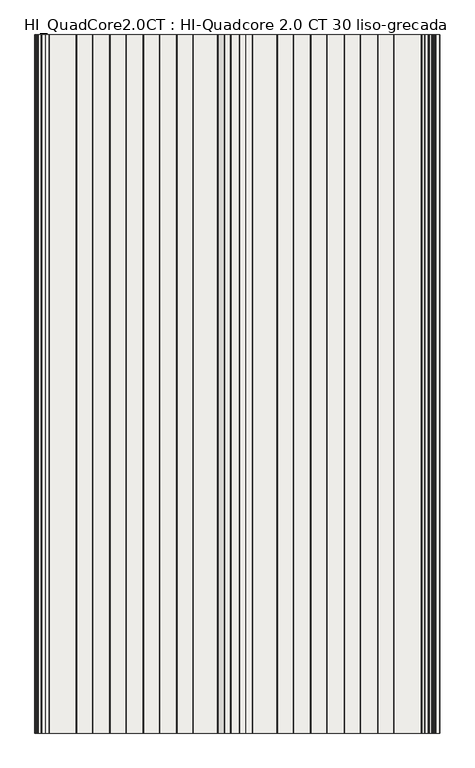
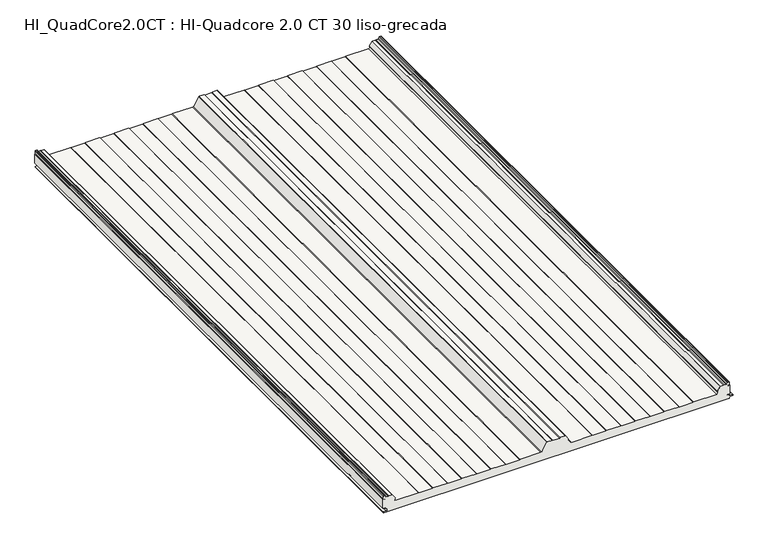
"""IFC4 building model written with IfcOpenShell, lengths in millimetres: slab geometry, HI_QuadCore2.0CT : HI-Quadcore 2.0 CT 30 liso-grecada."""

import ifcopenshell
import ifcopenshell.guid

model = None  # the IFC model being written
_history = None  # IfcOwnerHistory: only IFC2X3 demands one
_inside = {}  # id of a spatial element -> (the spatial element, [elements in it])
_under = {}  # id of a project, library or spatial element -> (it, [spatial elements below it])
_declared = {}  # id of a project -> (the project, [libraries it declares])
_typed = {}  # id of a type object -> (the type object, [elements of that type])
_made_of = {}  # id of a material, layer set ... -> (it, [elements and type objects made of it])


def new_model(schema):
    """Start an empty IFC model of exactly this schema.

    Asked for "IFC4X3", IfcOpenShell would pick the latest addendum, in which some entities
    have other attributes; the version numbers below select the first issue.
    IFC2X3 requires an IfcOwnerHistory on every rooted entity: one is made here for all.
    """
    global model, _history
    if schema == "IFC4X3":
        model = ifcopenshell.file(schema_version=(4, 3, 0, 0))
    else:
        model = ifcopenshell.file(schema=schema)
    _inside.clear()
    _under.clear()
    _declared.clear()
    _typed.clear()
    _made_of.clear()
    _history = None
    if model.schema == "IFC2X3":
        org = make("IfcOrganization", Name="unknown")
        user = make(
            "IfcPersonAndOrganization",
            ThePerson=make("IfcPerson", FamilyName="unknown"),
            TheOrganization=org,
        )
        app = make(
            "IfcApplication",
            ApplicationDeveloper=org,
            Version="unknown",
            ApplicationFullName="unknown",
            ApplicationIdentifier="unknown",
        )
        _history = make(
            "IfcOwnerHistory",
            OwningUser=user,
            OwningApplication=app,
            ChangeAction="ADDED",
            CreationDate=0,
        )
    return model


def make(cls, **values):
    """One entity of the class cls with the attributes given. An attribute that is None is left unset."""
    return model.create_entity(
        cls, **{name: value for name, value in values.items() if value is not None}
    )


def rooted(cls, **values):
    """An entity with a GlobalId (a new one), such as an element, a storey or a relation."""
    return make(cls, GlobalId=ifcopenshell.guid.new(), OwnerHistory=_history, **values)


def si_unit(unit_type, name, prefix=None):
    """IfcSIUnit, for example si_unit("LENGTHUNIT", "METRE", prefix="MILLI")."""
    return make("IfcSIUnit", UnitType=unit_type, Prefix=prefix, Name=name)


def assignment(units):
    """IfcUnitAssignment: the units of a project."""
    return None if units is None else make("IfcUnitAssignment", Units=units)


def point(xyz):
    """IfcCartesianPoint."""
    return None if xyz is None else make("IfcCartesianPoint", Coordinates=xyz)


def direction(xyz):
    """IfcDirection."""
    return None if xyz is None else make("IfcDirection", DirectionRatios=xyz)


def frame(location, z_axis=None, x_axis=None):
    """IfcAxis2Placement3D, a coordinate frame: its origin and axes. An axis left out is left unset."""
    return make(
        "IfcAxis2Placement3D",
        Location=point(location),
        Axis=direction(z_axis),
        RefDirection=direction(x_axis),
    )


def origin():
    """The frame at (0, 0, 0) with its axes left unset."""
    return frame((0.0, 0.0, 0.0))


def place(relative_to, where):
    """IfcLocalPlacement: puts the frame where relative to a parent placement (None: the world)."""
    return make(
        "IfcLocalPlacement", PlacementRelTo=relative_to, RelativePlacement=where
    )


def context(
    kind, dimensions, precision=None, world=None, true_north=None, identifier=None
):
    """IfcGeometricRepresentationContext, for example the 3D "Model" context."""
    return make(
        "IfcGeometricRepresentationContext",
        ContextIdentifier=identifier,
        ContextType=kind,
        CoordinateSpaceDimension=dimensions,
        Precision=precision,
        WorldCoordinateSystem=world,
        TrueNorth=true_north,
    )


def project(units=None, contexts=None):
    """IfcProject with its units and contexts."""
    return rooted(
        "IfcProject",
        Name="project",
        RepresentationContexts=contexts,
        UnitsInContext=assignment(units),
    )


def spatial(cls, under=None, at=None, **own):
    """A site, building, storey or space (cls), placed at a placement, below another one or the project."""
    s = rooted(cls, ObjectPlacement=at, **own)
    if under is not None:
        _under.setdefault(under.id(), (under, []))[1].append(s)
    return s


def polyline(points):
    """IfcPolyline through the points."""
    return make("IfcPolyline", Points=[point(p) for p in points])


def circle_curve(where, radius):
    """IfcCircle in the frame where."""
    return make("IfcCircle", Position=where, Radius=radius)


def shape(context_of_items, identifier, shape_type, items):
    """IfcShapeRepresentation: the items that make up one representation, for example the "Body"."""
    return make(
        "IfcShapeRepresentation",
        ContextOfItems=context_of_items,
        RepresentationIdentifier=identifier,
        RepresentationType=shape_type,
        Items=items,
    )


def source(mapping_origin, context_of_items, identifier, shape_type, items):
    """IfcRepresentationMap: a shape defined once, which mapped items show again and again."""
    return make(
        "IfcRepresentationMap",
        MappingOrigin=mapping_origin,
        MappedRepresentation=shape(context_of_items, identifier, shape_type, items),
    )


def transform(
    local_origin,
    x_axis=None,
    y_axis=None,
    z_axis=None,
    scale=None,
    scale2=None,
    scale3=None,
    uniform=True,
):
    """IfcCartesianTransformationOperator3D, or its non-uniform kind. x_axis, y_axis, z_axis: its Axis1, 2, 3."""
    if uniform:
        return make(
            "IfcCartesianTransformationOperator3D",
            Axis1=direction(x_axis),
            Axis2=direction(y_axis),
            LocalOrigin=point(local_origin),
            Scale=scale,
            Axis3=direction(z_axis),
        )
    return make(
        "IfcCartesianTransformationOperator3DnonUniform",
        Axis1=direction(x_axis),
        Axis2=direction(y_axis),
        LocalOrigin=point(local_origin),
        Scale=scale,
        Axis3=direction(z_axis),
        Scale2=scale2,
        Scale3=scale3,
    )


def mapped(mapping_source, mapping_target):
    """IfcMappedItem: shows the shape of a source again, moved by a transform."""
    return make(
        "IfcMappedItem", MappingSource=mapping_source, MappingTarget=mapping_target
    )


def made_of(thing, what):
    """Note that an element or type object is made of a material, layer set ...; save() writes the relation."""
    if what is not None:
        _made_of.setdefault(what.id(), (what, []))[1].append(thing)
    return thing


def element(
    cls,
    number,
    at=None,
    inside=None,
    cuts=None,
    type_object=None,
    material=None,
    context=None,
    identifier="Body",
    shape_type=None,
    held_by="IfcProductDefinitionShape",
    body=None,
    shapes=None,
    **own,
):
    """One element of the class cls, such as IfcWall. Its Tag is "e" and its number.

    at: its placement. inside: the storey or other place that contains it. cuts: it is an
    opening in that element (IfcRelVoidsElement). A single representation is given by context,
    identifier, shape_type and body (its items); several are given by shapes. held_by: the class
    of the entity that holds the representations. save() writes the other relations.
    """
    e = rooted(cls, Tag="e%d" % number, ObjectPlacement=at, **own)
    if body is not None:
        shapes = [shape(context, identifier, shape_type, body)]
    if shapes is not None:
        e.Representation = make(held_by, Representations=shapes)
    if inside is not None:
        _inside.setdefault(inside.id(), (inside, []))[1].append(e)
    if cuts is not None:
        rooted(
            "IfcRelVoidsElement", RelatingBuildingElement=cuts, RelatedOpeningElement=e
        )
    if type_object is not None:
        _typed.setdefault(type_object.id(), (type_object, []))[1].append(e)
    return made_of(e, material)


def aggregate(whole, parts):
    """IfcRelAggregates: a whole, such as a stair, and the parts it consists of."""
    return rooted("IfcRelAggregates", RelatingObject=whole, RelatedObjects=parts)


def save(model, path):
    """Write the relations noted so far, then the file.

    IfcRelAggregates (storeys below a building ...), IfcRelContainedInSpatialStructure (elements
    in a storey), IfcRelDefinesByType, IfcRelAssociatesMaterial and IfcRelDeclares: one each for
    every whole, place, type object, material and project.
    """
    for whole, parts in _under.values():
        aggregate(whole, parts)
    for where, things in _inside.values():
        rooted(
            "IfcRelContainedInSpatialStructure",
            RelatedElements=things,
            RelatingStructure=where,
        )
    for kind, things in _typed.values():
        rooted("IfcRelDefinesByType", RelatedObjects=things, RelatingType=kind)
    for what, things in _made_of.values():
        rooted("IfcRelAssociatesMaterial", RelatedObjects=things, RelatingMaterial=what)
    for by, libraries in _declared.values():
        rooted("IfcRelDeclares", RelatingContext=by, RelatedDefinitions=libraries)
    model.write(path)


def plane_surface(at):
    """IfcPlane: the flat surface through the origin of the frame at, square to its z axis."""
    return make("IfcPlane", Position=at)


def cylinder_surface(at, radius):
    """IfcCylindricalSurface: all points at the distance radius from the z axis of the frame at."""
    return make("IfcCylindricalSurface", Position=at, Radius=radius)


def revolved_surface(curve, axis_point, axis_direction):
    """IfcSurfaceOfRevolution: the curve turned about the line through axis_point along axis_direction."""
    return make(
        "IfcSurfaceOfRevolution",
        SweptCurve=make("IfcArbitraryOpenProfileDef", ProfileType="CURVE", Curve=curve),
        AxisPosition=make("IfcAxis1Placement", Location=point(axis_point), Axis=direction(axis_direction)),
    )


def advanced_brep(points, edges, surfaces, faces):
    """IfcAdvancedBrep: a solid bounded by faces that lie on surfaces and meet in shared edges.

    An edge is (start, end): straight between two places in points (the first is 0);
    or (start, end, curve); or (start, end, curve, False) where it runs against its curve.
    A face is (place in surfaces, loops), or (place, loops, False) where it looks against
    its surface's normal. A loop lists edges by number (the first is 1), with a minus sign
    where the edge is run from its end to its start. The first loop is the outer one.
    """
    corners = [point(p) for p in points]
    vertices = [make("IfcVertexPoint", VertexGeometry=c) for c in corners]
    made = []
    for start, end, *more in edges:
        made.append(
            make(
                "IfcEdgeCurve",
                EdgeStart=vertices[start],
                EdgeEnd=vertices[end],
                EdgeGeometry=more[0] if more else make("IfcPolyline", Points=[corners[start], corners[end]]),
                SameSense=more[1] if len(more) > 1 else True,
            )
        )
    hull = []
    for where, loops, *sense in faces:
        bounds = []
        for j, loop in enumerate(loops):
            ring = [make("IfcOrientedEdge", EdgeElement=made[abs(k) - 1], Orientation=k > 0) for k in loop]
            bounds.append(
                make(
                    "IfcFaceOuterBound" if j == 0 else "IfcFaceBound",
                    Bound=make("IfcEdgeLoop", EdgeList=ring),
                    Orientation=True,
                )
            )
        hull.append(make("IfcAdvancedFace", Bounds=bounds, FaceSurface=surfaces[where], SameSense=sense[0] if sense else True))
    return make("IfcAdvancedBrep", Outer=make("IfcClosedShell", CfsFaces=hull))


def hi_quadcore2_0ct_hi_quadcore_2_0_ct_30_liso_grecada_55503dc5(model_context):
    return source(origin(), model_context, "Body", "AdvancedBrep", [
        advanced_brep(
        [(5.1475465, 0.0, 45.7425833), (1.3824194, 0.0, 47.9163804), (0.0, 0.0, 47.9163804), (0.0, 0.0, 16.239302), (7.510215, 0.0, 16.239302), (7.510215, 0.0, 15.4391074), (3.6125693, 0.0, 15.4391074), (2.4319301, 0.0, 14.2584682), (3.4276302, 0.0, 13.0866965), (11.8278581, 0.0, 11.7547343), (11.7995989, 0.0, 4.4809044), (1.8467032, 0.0, 2.9844289), (2.0100062, 0.0, 0.8), (1147.9590685, 0.0, 0.8), (1149.3391392, 0.0, 2.1800708), (1152.5664905, 0.0, 5.8294074), (1160.7843221, 0.0, 6.8264698), (1160.7843299, 0.0, 9.4135286), (1150.8450446, 0.0, 10.6192254), (1147.8324398, 0.0, 14.0237344), (1147.2282701, 0.0, 15.44), (1142.7624398, 0.0, 15.44), (1142.7624398, 0.0, 16.239302), (1150.0, 0.0, 16.239302), (1150.0, 0.0, 47.9163804), (1148.8824194, 0.0, 47.9163804), (1145.1172924, 0.0, 45.7425833), (1144.7172924, 0.0, 46.4354036), (1148.5824194, 0.0, 48.6669358), (1148.5824194, 0.0, 58.1), (1147.4824194, 0.0, 59.2), (1143.8888221, 0.0, 59.2), (1142.8725546, 0.0, 58.5209518), (1141.0157992, 0.0, 54.0383476), (1138.8631598, 0.0, 52.6), (1132.1371875, 0.0, 52.6), (1130.4324194, 0.0, 51.8110374), (1128.7276514, 0.0, 52.6), (1119.4004541, 0.0, 52.6), (1118.4939153, 0.0, 52.1230469), (1109.1558806, 0.0, 38.5361221), (1109.356723, 0.0, 37.0692788), (1110.3070878, 0.0, 36.2744554), (1107.4852773, 0.0, 29.2), (1031.3816122, 0.0, 29.2), (1029.6495614, 0.0, 28.2), (984.6152775, 0.0, 28.2), (982.8832267, 0.0, 29.2), (935.3816122, 0.0, 29.2), (933.6495614, 0.0, 28.2), (888.6152775, 0.0, 28.2), (886.8832267, 0.0, 29.2), (839.3816122, 0.0, 29.2), (837.6495614, 0.0, 28.2), (792.6152775, 0.0, 28.2), (790.8832267, 0.0, 29.2), (743.3816122, 0.0, 29.2), (741.6495614, 0.0, 28.2), (696.6152775, 0.0, 28.2), (694.8832267, 0.0, 29.2), (625.9029123, 0.0, 29.2), (623.9344839, 0.0, 30.2833287), (605.9445057, 0.0, 58.6885573), (605.0152048, 0.0, 59.2), (588.8816122, 0.0, 59.2), (586.283536, 0.0, 57.7), (563.9813029, 0.0, 57.7), (561.3832267, 0.0, 59.2), (545.2496341, 0.0, 59.2), (544.3203331, 0.0, 58.6885573), (526.330355, 0.0, 30.2833287), (524.3619266, 0.0, 29.2), (455.3816122, 0.0, 29.2), (453.6495614, 0.0, 28.2), (408.6152775, 0.0, 28.2), (406.8832267, 0.0, 29.2), (359.3816122, 0.0, 29.2), (357.6495614, 0.0, 28.2), (312.6152775, 0.0, 28.2), (310.8832267, 0.0, 29.2), (263.3816122, 0.0, 29.2), (261.6495614, 0.0, 28.2), (216.6152775, 0.0, 28.2), (214.8832267, 0.0, 29.2), (167.3816122, 0.0, 29.2), (165.6495614, 0.0, 28.2), (120.6152775, 0.0, 28.2), (118.8832267, 0.0, 29.2), (42.7795617, 0.0, 29.2), (39.9577511, 0.0, 36.2744555), (40.9081159, 0.0, 37.0692788), (41.1089583, 0.0, 38.5361221), (31.7709236, 0.0, 52.1230469), (30.8643848, 0.0, 52.6), (21.5371875, 0.0, 52.6), (19.8324194, 0.0, 51.8110374), (18.1276514, 0.0, 52.6), (11.4016791, 0.0, 52.6), (9.2490397, 0.0, 54.0383476), (7.3922843, 0.0, 58.5209518), (6.3760168, 0.0, 59.2), (2.7824194, 0.0, 59.2), (1.6824194, 0.0, 58.1), (1.6824194, 0.0, 48.6669358), (5.5475465, 0.0, 46.4354036), (5.1475465, 2000.0, 45.7425833), (5.5475465, 2000.0, 46.4354036), (1.6824194, 2000.0, 48.6669358), (1.6824194, 2000.0, 58.1), (2.7824194, 2000.0, 59.2), (6.3760168, 2000.0, 59.2), (7.3922843, 2000.0, 58.5209518), (9.2490397, 2000.0, 54.0383476), (11.4016791, 2000.0, 52.6), (18.1276514, 2000.0, 52.6), (19.8324194, 2000.0, 51.8110374), (21.5371875, 2000.0, 52.6), (30.8643848, 2000.0, 52.6), (31.7709236, 2000.0, 52.1230469), (41.1089583, 2000.0, 38.5361221), (40.9081159, 2000.0, 37.0692788), (39.9577511, 2000.0, 36.2744555), (42.7795617, 2000.0, 29.2), (118.8832267, 2000.0, 29.2), (120.6152775, 2000.0, 28.2), (165.6495614, 2000.0, 28.2), (167.3816122, 2000.0, 29.2), (214.8832267, 2000.0, 29.2), (216.6152775, 2000.0, 28.2), (261.6495614, 2000.0, 28.2), (263.3816122, 2000.0, 29.2), (310.8832267, 2000.0, 29.2), (312.6152775, 2000.0, 28.2), (357.6495614, 2000.0, 28.2), (359.3816122, 2000.0, 29.2), (406.8832267, 2000.0, 29.2), (408.6152775, 2000.0, 28.2), (453.6495614, 2000.0, 28.2), (455.3816122, 2000.0, 29.2), (524.3619266, 2000.0, 29.2), (526.330355, 2000.0, 30.2833287), (544.3203331, 2000.0, 58.6885573), (545.2496341, 2000.0, 59.2), (561.3832267, 2000.0, 59.2), (563.9813029, 2000.0, 57.7), (586.283536, 2000.0, 57.7), (588.8816122, 2000.0, 59.2), (605.0152048, 2000.0, 59.2), (605.9445057, 2000.0, 58.6885573), (623.9344839, 2000.0, 30.2833287), (625.9029123, 2000.0, 29.2), (694.8832267, 2000.0, 29.2), (696.6152775, 2000.0, 28.2), (741.6495614, 2000.0, 28.2), (743.3816122, 2000.0, 29.2), (790.8832267, 2000.0, 29.2), (792.6152775, 2000.0, 28.2), (837.6495614, 2000.0, 28.2), (839.3816122, 2000.0, 29.2), (886.8832267, 2000.0, 29.2), (888.6152775, 2000.0, 28.2), (933.6495614, 2000.0, 28.2), (935.3816122, 2000.0, 29.2), (982.8832267, 2000.0, 29.2), (984.6152775, 2000.0, 28.2), (1029.6495614, 2000.0, 28.2), (1031.3816122, 2000.0, 29.2), (1107.4852773, 2000.0, 29.2), (1110.3070878, 2000.0, 36.2744554), (1109.356723, 2000.0, 37.0692788), (1109.1558806, 2000.0, 38.5361221), (1118.4939153, 2000.0, 52.1230469), (1119.4004541, 2000.0, 52.6), (1128.7276514, 2000.0, 52.6), (1130.4324194, 2000.0, 51.8110374), (1132.1371875, 2000.0, 52.6), (1138.8631598, 2000.0, 52.6), (1141.0157992, 2000.0, 54.0383476), (1142.8725546, 2000.0, 58.5209518), (1143.8888221, 2000.0, 59.2), (1147.4824194, 2000.0, 59.2), (1148.5824194, 2000.0, 58.1), (1148.5824194, 2000.0, 48.6669358), (1144.7172924, 2000.0, 46.4354036), (1145.1172924, 2000.0, 45.7425833), (1148.8824194, 2000.0, 47.9163804), (1150.0, 2000.0, 47.9163804), (1150.0, 2000.0, 16.239302), (1142.7624398, 2000.0, 16.239302), (1142.7624398, 2000.0, 15.44), (1147.2282701, 2000.0, 15.44), (1147.8324398, 2000.0, 14.0237344), (1150.8450446, 2000.0, 10.6192254), (1160.7843299, 2000.0, 9.4135286), (1160.7843221, 2000.0, 6.8264698), (1152.5664905, 2000.0, 5.8294074), (1149.3391392, 2000.0, 2.1800708), (1147.9590685, 2000.0, 0.8), (2.0100062, 2000.0, 0.8), (1.8467032, 2000.0, 2.9844289), (11.7995989, 2000.0, 4.4809044), (11.8278581, 2000.0, 11.7547343), (3.4273037, 2000.0, 13.0846342), (2.4319301, 2000.0, 14.2584682), (3.6125693, 2000.0, 15.4391074), (7.510215, 2000.0, 15.4391074), (7.510215, 2000.0, 16.239302), (0.0, 2000.0, 16.239302), (0.0, 2000.0, 47.9163804), (1.3824194, 2000.0, 47.9163804)],
        [
            (0, 1),
            (1, 2),
            (2, 3),
            (3, 4),
            (4, 5),
            (5, 6),
            (6, 7, circle_curve(frame((3.6125693, 0.0, 14.2584682), z_axis=(0.0, -1.0, 0.0), x_axis=(1.0, 0.0, 0.0)), 1.1806391)),
            (7, 8, circle_curve(frame((3.6121809, 0.0, 14.2524448), z_axis=(0.0, -1.0, 0.0), x_axis=(1.0, 0.0, 0.0)), 1.1802661)),
            (8, 9),
            (9, 10, circle_curve(frame((11.2524398, 0.0, 8.12), z_axis=(0.0, 1.0, 0.0), x_axis=(1.0, 0.0, 0.0)), 3.68)),
            (10, 11),
            (11, 12, circle_curve(frame((2.0100062, 0.0, 1.8983185), z_axis=(0.0, -1.0, 0.0), x_axis=(1.0, 0.0, 0.0)), 1.0983185)),
            (12, 13),
            (13, 14, circle_curve(frame((1147.9590685, 0.0, 2.1800708), z_axis=(0.0, -1.0, 0.0), x_axis=(1.0, 0.0, 0.0)), 1.3800708)),
            (14, 15, circle_curve(frame((1153.0160638, 0.0, 2.1800708), z_axis=(0.0, 1.0, 0.0), x_axis=(1.0, 0.0, 0.0)), 3.6769246)),
            (15, 16),
            (16, 17, circle_curve(frame((1160.5224398, 0.0, 8.12), z_axis=(0.0, -1.0, 0.0), x_axis=(1.0, 0.0, 0.0)), 1.3197737)),
            (17, 18),
            (18, 19, circle_curve(frame((1151.2624398, 0.0, 14.0237344), z_axis=(0.0, 1.0, 0.0), x_axis=(1.0, 0.0, 0.0)), 3.43)),
            (19, 20, circle_curve(frame((1145.8703839, 0.0, 14.0237344), z_axis=(0.0, -1.0, 0.0), x_axis=(1.0, 0.0, 0.0)), 1.9620559)),
            (20, 21),
            (21, 22),
            (22, 23),
            (23, 24),
            (24, 25),
            (25, 26),
            (26, 27),
            (27, 28),
            (28, 29),
            (29, 30, circle_curve(frame((1147.4824194, 0.0, 58.1), z_axis=(0.0, -1.0, 0.0), x_axis=(1.0, 0.0, 0.0)), 1.1)),
            (30, 31),
            (31, 32, circle_curve(frame((1143.8888221, 0.0, 58.1), z_axis=(0.0, -1.0, 0.0), x_axis=(1.0, 0.0, 0.0)), 1.1)),
            (32, 33),
            (33, 34, circle_curve(frame((1138.8631598, 0.0, 54.93), z_axis=(0.0, 1.0, 0.0), x_axis=(1.0, 0.0, 0.0)), 2.33)),
            (34, 35),
            (35, 36),
            (36, 37),
            (37, 38),
            (38, 39, circle_curve(frame((1119.4004541, 0.0, 51.5), z_axis=(0.0, -1.0, 0.0), x_axis=(1.0, 0.0, 0.0)), 1.1)),
            (39, 40),
            (40, 41, circle_curve(frame((1110.0624194, 0.0, 37.9130753), z_axis=(0.0, -1.0, 0.0), x_axis=(1.0, 0.0, 0.0)), 1.1)),
            (41, 42),
            (42, 43, circle_curve(frame((1107.4852773, 0.0, 33.3), z_axis=(0.0, 1.0, 0.0), x_axis=(1.0, 0.0, 0.0)), 4.1)),
            (43, 44),
            (44, 45),
            (45, 46),
            (46, 47),
            (47, 48),
            (48, 49),
            (49, 50),
            (50, 51),
            (51, 52),
            (52, 53),
            (53, 54),
            (54, 55),
            (55, 56),
            (56, 57),
            (57, 58),
            (58, 59),
            (59, 60),
            (60, 61, circle_curve(frame((625.9029123, 0.0, 31.53), z_axis=(0.0, 1.0, 0.0), x_axis=(1.0, 0.0, 0.0)), 2.33)),
            (61, 62),
            (62, 63, circle_curve(frame((605.0152048, 0.0, 58.1), z_axis=(0.0, -1.0, 0.0), x_axis=(1.0, 0.0, 0.0)), 1.1)),
            (63, 64),
            (64, 65),
            (65, 66),
            (66, 67),
            (67, 68),
            (68, 69, circle_curve(frame((545.2496341, 0.0, 58.1), z_axis=(0.0, -1.0, 0.0), x_axis=(1.0, 0.0, 0.0)), 1.1)),
            (69, 70),
            (70, 71, circle_curve(frame((524.3619266, 0.0, 31.53), z_axis=(0.0, 1.0, 0.0), x_axis=(1.0, 0.0, 0.0)), 2.33)),
            (71, 72),
            (72, 73),
            (73, 74),
            (74, 75),
            (75, 76),
            (76, 77),
            (77, 78),
            (78, 79),
            (79, 80),
            (80, 81),
            (81, 82),
            (82, 83),
            (83, 84),
            (84, 85),
            (85, 86),
            (86, 87),
            (87, 88),
            (88, 89, circle_curve(frame((42.7795617, 0.0, 33.3), z_axis=(0.0, 1.0, 0.0), x_axis=(1.0, 0.0, 0.0)), 4.1)),
            (89, 90),
            (90, 91, circle_curve(frame((40.2024195, 0.0, 37.9130752), z_axis=(0.0, -1.0, 0.0), x_axis=(1.0, 0.0, 0.0)), 1.1)),
            (91, 92),
            (92, 93, circle_curve(frame((30.8643848, 0.0, 51.5), z_axis=(0.0, -1.0, 0.0), x_axis=(1.0, 0.0, 0.0)), 1.1)),
            (93, 94),
            (94, 95),
            (95, 96),
            (96, 97),
            (97, 98, circle_curve(frame((11.4016791, 0.0, 54.93), z_axis=(0.0, 1.0, 0.0), x_axis=(1.0, 0.0, 0.0)), 2.33)),
            (98, 99),
            (99, 100, circle_curve(frame((6.3760168, 0.0, 58.1), z_axis=(0.0, -1.0, 0.0), x_axis=(1.0, 0.0, 0.0)), 1.1)),
            (100, 101),
            (101, 102, circle_curve(frame((2.7824194, 0.0, 58.1), z_axis=(0.0, -1.0, 0.0), x_axis=(1.0, 0.0, 0.0)), 1.1)),
            (102, 103),
            (103, 104),
            (104, 0),
            (105, 106),
            (106, 107),
            (107, 108),
            (108, 109, circle_curve(frame((2.7824194, 2000.0, 58.1), z_axis=(0.0, 1.0, 0.0), x_axis=(1.0, 0.0, 0.0)), 1.1)),
            (109, 110),
            (110, 111, circle_curve(frame((6.3760168, 2000.0, 58.1), z_axis=(0.0, 1.0, 0.0), x_axis=(1.0, 0.0, 0.0)), 1.1)),
            (111, 112),
            (112, 113, circle_curve(frame((11.4016791, 2000.0, 54.93), z_axis=(0.0, -1.0, 0.0), x_axis=(1.0, 0.0, 0.0)), 2.33)),
            (113, 114),
            (114, 115),
            (115, 116),
            (116, 117),
            (117, 118, circle_curve(frame((30.8643848, 2000.0, 51.5), z_axis=(0.0, 1.0, 0.0), x_axis=(1.0, 0.0, 0.0)), 1.1)),
            (118, 119),
            (119, 120, circle_curve(frame((40.2024195, 2000.0, 37.9130752), z_axis=(0.0, 1.0, 0.0), x_axis=(1.0, 0.0, 0.0)), 1.1)),
            (120, 121),
            (121, 122, circle_curve(frame((42.7795617, 2000.0, 33.3), z_axis=(0.0, -1.0, 0.0), x_axis=(1.0, 0.0, 0.0)), 4.1)),
            (122, 123),
            (123, 124),
            (124, 125),
            (125, 126),
            (126, 127),
            (127, 128),
            (128, 129),
            (129, 130),
            (130, 131),
            (131, 132),
            (132, 133),
            (133, 134),
            (134, 135),
            (135, 136),
            (136, 137),
            (137, 138),
            (138, 139),
            (139, 140, circle_curve(frame((524.3619266, 2000.0, 31.53), z_axis=(0.0, -1.0, 0.0), x_axis=(1.0, 0.0, 0.0)), 2.33)),
            (140, 141),
            (141, 142, circle_curve(frame((545.2496341, 2000.0, 58.1), z_axis=(0.0, 1.0, 0.0), x_axis=(1.0, 0.0, 0.0)), 1.1)),
            (142, 143),
            (143, 144),
            (144, 145),
            (145, 146),
            (146, 147),
            (147, 148, circle_curve(frame((605.0152048, 2000.0, 58.1), z_axis=(0.0, 1.0, 0.0), x_axis=(1.0, 0.0, 0.0)), 1.1)),
            (148, 149),
            (149, 150, circle_curve(frame((625.9029123, 2000.0, 31.53), z_axis=(0.0, -1.0, 0.0), x_axis=(1.0, 0.0, 0.0)), 2.33)),
            (150, 151),
            (151, 152),
            (152, 153),
            (153, 154),
            (154, 155),
            (155, 156),
            (156, 157),
            (157, 158),
            (158, 159),
            (159, 160),
            (160, 161),
            (161, 162),
            (162, 163),
            (163, 164),
            (164, 165),
            (165, 166),
            (166, 167),
            (167, 168, circle_curve(frame((1107.4852773, 2000.0, 33.3), z_axis=(0.0, -1.0, 0.0), x_axis=(1.0, 0.0, 0.0)), 4.1)),
            (168, 169),
            (169, 170, circle_curve(frame((1110.0624194, 2000.0, 37.9130753), z_axis=(0.0, 1.0, 0.0), x_axis=(1.0, 0.0, 0.0)), 1.1)),
            (170, 171),
            (171, 172, circle_curve(frame((1119.4004541, 2000.0, 51.5), z_axis=(0.0, 1.0, 0.0), x_axis=(1.0, 0.0, 0.0)), 1.1)),
            (172, 173),
            (173, 174),
            (174, 175),
            (175, 176),
            (176, 177, circle_curve(frame((1138.8631598, 2000.0, 54.93), z_axis=(0.0, -1.0, 0.0), x_axis=(1.0, 0.0, 0.0)), 2.33)),
            (177, 178),
            (178, 179, circle_curve(frame((1143.8888221, 2000.0, 58.1), z_axis=(0.0, 1.0, 0.0), x_axis=(1.0, 0.0, 0.0)), 1.1)),
            (179, 180),
            (180, 181, circle_curve(frame((1147.4824194, 2000.0, 58.1), z_axis=(0.0, 1.0, 0.0), x_axis=(1.0, 0.0, 0.0)), 1.1)),
            (181, 182),
            (182, 183),
            (183, 184),
            (184, 185),
            (185, 186),
            (186, 187),
            (187, 188),
            (188, 189),
            (189, 190),
            (190, 191, circle_curve(frame((1145.8703839, 2000.0, 14.0237344), z_axis=(0.0, 1.0, 0.0), x_axis=(1.0, 0.0, 0.0)), 1.9620559)),
            (191, 192, circle_curve(frame((1151.2624398, 2000.0, 14.0237344), z_axis=(0.0, -1.0, 0.0), x_axis=(1.0, 0.0, 0.0)), 3.43)),
            (192, 193),
            (193, 194, circle_curve(frame((1160.5224398, 2000.0, 8.12), z_axis=(0.0, 1.0, 0.0), x_axis=(1.0, 0.0, 0.0)), 1.3197737)),
            (194, 195),
            (195, 196, circle_curve(frame((1153.0160638, 2000.0, 2.1800708), z_axis=(0.0, -1.0, 0.0), x_axis=(1.0, 0.0, 0.0)), 3.6769246)),
            (196, 197, circle_curve(frame((1147.9590685, 2000.0, 2.1800708), z_axis=(0.0, 1.0, 0.0), x_axis=(1.0, 0.0, 0.0)), 1.3800708)),
            (197, 198),
            (198, 199, circle_curve(frame((2.0100062, 2000.0, 1.8983185), z_axis=(0.0, 1.0, 0.0), x_axis=(1.0, 0.0, 0.0)), 1.0983185)),
            (199, 200),
            (200, 201, circle_curve(frame((11.2524398, 2000.0, 8.12), z_axis=(0.0, -1.0, 0.0), x_axis=(1.0, 0.0, 0.0)), 3.68)),
            (201, 202),
            (202, 203, circle_curve(frame((3.6121809, 2000.0, 14.2524448), z_axis=(0.0, 1.0, 0.0), x_axis=(1.0, 0.0, 0.0)), 1.1802661)),
            (203, 204, circle_curve(frame((3.6125693, 2000.0, 14.2584682), z_axis=(0.0, 1.0, 0.0), x_axis=(1.0, 0.0, 0.0)), 1.1806391)),
            (204, 205),
            (205, 206),
            (206, 207),
            (207, 208),
            (208, 209),
            (209, 105),
            (0, 105),
            (209, 1),
            (208, 2),
            (207, 3),
            (186, 24),
            (23, 187),
            (185, 25),
            (184, 26),
            (183, 27),
            (182, 28),
            (181, 29),
            (180, 30),
            (179, 31),
            (178, 32),
            (177, 33),
            (176, 34),
            (175, 35),
            (174, 36),
            (173, 37),
            (172, 38),
            (171, 39),
            (170, 40),
            (169, 41),
            (168, 42),
            (167, 43),
            (166, 44),
            (165, 45),
            (164, 46),
            (163, 47),
            (162, 48),
            (161, 49),
            (160, 50),
            (159, 51),
            (158, 52),
            (157, 53),
            (156, 54),
            (155, 55),
            (154, 56),
            (153, 57),
            (152, 58),
            (151, 59),
            (150, 60),
            (149, 61),
            (148, 62),
            (147, 63),
            (146, 64),
            (145, 65),
            (144, 66),
            (143, 67),
            (142, 68),
            (141, 69),
            (140, 70),
            (139, 71),
            (138, 72),
            (137, 73),
            (136, 74),
            (135, 75),
            (134, 76),
            (133, 77),
            (132, 78),
            (131, 79),
            (130, 80),
            (129, 81),
            (128, 82),
            (127, 83),
            (126, 84),
            (125, 85),
            (124, 86),
            (123, 87),
            (122, 88),
            (121, 89),
            (120, 90),
            (119, 91),
            (118, 92),
            (117, 93),
            (116, 94),
            (115, 95),
            (114, 96),
            (113, 97),
            (112, 98),
            (111, 99),
            (110, 100),
            (109, 101),
            (108, 102),
            (107, 103),
            (106, 104),
            (22, 188),
            (206, 4),
            (205, 5),
            (204, 6),
            (203, 7),
            (202, 8),
            (201, 9),
            (200, 10),
            (199, 11),
            (198, 12),
            (197, 13),
            (196, 14),
            (195, 15),
            (194, 16),
            (193, 17),
            (192, 18),
            (191, 19),
            (190, 20),
            (189, 21),
        ],
        [
            plane_surface(frame((1.3824194, 0.0, 47.9163804), z_axis=(0.0, -1.0, 0.0), x_axis=(-0.866025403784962, 0.0, 0.4999999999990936))),
            plane_surface(frame((1.3824194, 2000.0, 47.9163804), z_axis=(0.0, 1.0, 0.0), x_axis=(0.866025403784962, 0.0, -0.4999999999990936))),
            plane_surface(frame((5.1475465, 0.0, 45.7425833), z_axis=(0.4999999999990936, 0.0, 0.866025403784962), x_axis=(0.0, 1.0, 0.0))),
            plane_surface(frame((1.3824194, 0.0, 47.9163804), z_axis=(0.0, 0.0, 1.0), x_axis=(0.0, 1.0, 0.0))),
            plane_surface(frame((0.0, 0.0, 47.9163804), z_axis=(-1.0, 0.0, 0.0), x_axis=(0.0, 1.0, 0.0))),
            plane_surface(frame((1150.0, 0.0, 20.0), z_axis=(1.0, 0.0, 0.0), x_axis=(0.0, 1.0, 0.0))),
            plane_surface(frame((1150.0, 0.0, 47.9163804), z_axis=(0.0, 0.0, 1.0), x_axis=(0.0, 1.0, 0.0))),
            plane_surface(frame((1148.8824194, 0.0, 47.9163804), z_axis=(-0.4999999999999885, 0.0, 0.8660254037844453), x_axis=(0.0, 1.0, 0.0))),
            plane_surface(frame((1145.1172924, 0.0, 45.7425833), z_axis=(0.8660254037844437, 0.0, 0.49999999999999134), x_axis=(0.0, 1.0, 0.0))),
            plane_surface(frame((1144.7172924, 0.0, 46.4354036), z_axis=(0.4999999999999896, 0.0, -0.8660254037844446), x_axis=(0.0, 1.0, 0.0))),
            plane_surface(frame((1148.5824194, 0.0, 48.6669358), z_axis=(1.0, 0.0, 0.0), x_axis=(0.0, 1.0, 0.0))),
            cylinder_surface(frame((1147.4824194, 2000.0, 58.1), z_axis=(0.0, -1.0, 0.0), x_axis=(1.0, 0.0, 0.0)), 1.1),
            plane_surface(frame((1147.4824194, 0.0, 59.2), z_axis=(0.0, 0.0, 1.0), x_axis=(0.0, 1.0, 0.0))),
            cylinder_surface(frame((1143.8888221, 2000.0, 58.1), z_axis=(0.0, -1.0, 0.0), x_axis=(1.0, 0.0, 0.0)), 1.1),
            plane_surface(frame((1142.8725546, 0.0, 58.5209518), z_axis=(-0.9238795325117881, 0.0, 0.38268343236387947), x_axis=(0.0, 1.0, 0.0))),
            revolved_surface(polyline([(1141.1931597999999, 2000.0, 54.93), (1141.1931597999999, 0.0, 54.93)]), (1138.8631598, 2000.0, 54.93), (0.0, 1.0, 0.0)),
            plane_surface(frame((1138.8631598, 0.0, 52.6), z_axis=(0.0, 0.0, 1.0), x_axis=(0.0, 1.0, 0.0))),
            plane_surface(frame((1132.1371875, 0.0, 52.6), z_axis=(-0.4199999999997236, 0.0, 0.9075241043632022), x_axis=(0.0, 1.0, 0.0))),
            plane_surface(frame((1130.4324194, 0.0, 51.8110374), z_axis=(0.42000000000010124, 0.0, 0.9075241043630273), x_axis=(0.0, 1.0, 0.0))),
            plane_surface(frame((1128.7276514, 0.0, 52.6), z_axis=(0.0, 0.0, 1.0), x_axis=(0.0, 1.0, 0.0))),
            cylinder_surface(frame((1119.4004541, 2000.0, 51.5), z_axis=(0.0, -1.0, 0.0), x_axis=(1.0, 0.0, 0.0)), 1.1),
            plane_surface(frame((1118.4939153, 0.0, 52.1230469), z_axis=(-0.824126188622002, 0.0, 0.5664062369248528), x_axis=(0.0, 1.0, 0.0))),
            cylinder_surface(frame((1110.0624194, 2000.0, 37.9130753), z_axis=(0.0, -1.0, 0.0), x_axis=(1.0, 0.0, 0.0)), 1.1),
            plane_surface(frame((1109.356723, 0.0, 37.0692788), z_axis=(-0.6415422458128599, 0.0, -0.7670877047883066), x_axis=(0.0, 1.0, 0.0))),
            revolved_surface(polyline([(1111.5852773, 2000.0, 33.3), (1111.5852773, 0.0, 33.3)]), (1107.4852773, 2000.0, 33.3), (0.0, 1.0, 0.0)),
            plane_surface(frame((1107.4852773, 0.0, 29.2), z_axis=(0.0, 0.0, 1.0), x_axis=(0.0, 1.0, 0.0))),
            plane_surface(frame((1031.3816122, 0.0, 29.2), z_axis=(-0.4999999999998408, 0.0, 0.8660254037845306), x_axis=(0.0, 1.0, 0.0))),
            plane_surface(frame((1029.6495614, 0.0, 28.2), z_axis=(0.0, 0.0, 1.0), x_axis=(0.0, 1.0, 0.0))),
            plane_surface(frame((984.6152775, 0.0, 28.2), z_axis=(0.4999999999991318, 0.0, 0.86602540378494), x_axis=(0.0, 1.0, 0.0))),
            plane_surface(frame((982.8832267, 0.0, 29.2), z_axis=(0.0, 0.0, 1.0), x_axis=(0.0, 1.0, 0.0))),
            plane_surface(frame((935.3816122, 0.0, 29.2), z_axis=(-0.49999999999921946, 0.0, 0.8660254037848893), x_axis=(0.0, 1.0, 0.0))),
            plane_surface(frame((933.6495614, 0.0, 28.2), z_axis=(0.0, 0.0, 1.0), x_axis=(0.0, 1.0, 0.0))),
            plane_surface(frame((888.6152775, 0.0, 28.2), z_axis=(0.49999999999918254, 0.0, 0.8660254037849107), x_axis=(0.0, 1.0, 0.0))),
            plane_surface(frame((886.8832267, 0.0, 29.2), z_axis=(0.0, 0.0, 1.0), x_axis=(0.0, 1.0, 0.0))),
            plane_surface(frame((839.3816122, 0.0, 29.2), z_axis=(-0.4999999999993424, 0.0, 0.8660254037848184), x_axis=(0.0, 1.0, 0.0))),
            plane_surface(frame((837.6495614, 0.0, 28.2), z_axis=(0.0, 0.0, 1.0), x_axis=(0.0, 1.0, 0.0))),
            plane_surface(frame((792.6152775, 0.0, 28.2), z_axis=(0.4999999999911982, 0.0, 0.8660254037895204), x_axis=(0.0, 1.0, 0.0))),
            plane_surface(frame((790.8832267, 0.0, 29.2), z_axis=(0.0, 0.0, 1.0), x_axis=(0.0, 1.0, 0.0))),
            plane_surface(frame((743.3816122, 0.0, 29.2), z_axis=(-0.5000000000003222, 0.0, 0.8660254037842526), x_axis=(0.0, 1.0, 0.0))),
            plane_surface(frame((741.6495614, 0.0, 28.2), z_axis=(0.0, 0.0, 1.0), x_axis=(0.0, 1.0, 0.0))),
            plane_surface(frame((696.6152775, 0.0, 28.2), z_axis=(0.5000000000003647, 0.0, 0.8660254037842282), x_axis=(0.0, 1.0, 0.0))),
            plane_surface(frame((694.8832267, 0.0, 29.2), z_axis=(0.0, 0.0, 1.0), x_axis=(0.0, 1.0, 0.0))),
            revolved_surface(polyline([(628.2329123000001, 2000.0, 31.53), (628.2329123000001, 0.0, 31.53)]), (625.9029123, 2000.0, 31.53), (0.0, 1.0, 0.0)),
            plane_surface(frame((623.9344839, 0.0, 30.2833287), z_axis=(0.8448190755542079, 0.0, 0.5350520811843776), x_axis=(0.0, 1.0, 0.0))),
            cylinder_surface(frame((605.0152048, 2000.0, 58.1), z_axis=(0.0, -1.0, 0.0), x_axis=(1.0, 0.0, 0.0)), 1.1),
            plane_surface(frame((605.0152048, 0.0, 59.2), z_axis=(0.0, 0.0, 1.0), x_axis=(0.0, 1.0, 0.0))),
            plane_surface(frame((588.8816122, 0.0, 59.2), z_axis=(-0.4999999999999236, 0.0, 0.8660254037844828), x_axis=(0.0, 1.0, 0.0))),
            plane_surface(frame((586.283536, 0.0, 57.7), z_axis=(0.0, 0.0, 1.0), x_axis=(0.0, 1.0, 0.0))),
            plane_surface(frame((563.9813029, 0.0, 57.7), z_axis=(0.5000000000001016, 0.0, 0.86602540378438), x_axis=(0.0, 1.0, 0.0))),
            plane_surface(frame((561.3832267, 0.0, 59.2), z_axis=(0.0, 0.0, 1.0), x_axis=(0.0, 1.0, 0.0))),
            cylinder_surface(frame((545.2496341, 2000.0, 58.1), z_axis=(0.0, -1.0, 0.0), x_axis=(1.0, 0.0, 0.0)), 1.1),
            plane_surface(frame((544.3203331, 0.0, 58.6885573), z_axis=(-0.8448190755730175, 0.0, 0.5350520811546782), x_axis=(0.0, 1.0, 0.0))),
            revolved_surface(polyline([(526.6919266, 2000.0, 31.53), (526.6919266, 0.0, 31.53)]), (524.3619266, 2000.0, 31.53), (0.0, 1.0, 0.0)),
            plane_surface(frame((524.3619266, 0.0, 29.2), z_axis=(0.0, 0.0, 1.0), x_axis=(0.0, 1.0, 0.0))),
            plane_surface(frame((455.3816122, 0.0, 29.2), z_axis=(-0.5000000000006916, 0.0, 0.8660254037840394), x_axis=(0.0, 1.0, 0.0))),
            plane_surface(frame((453.6495614, 0.0, 28.2), z_axis=(0.0, 0.0, 1.0), x_axis=(0.0, 1.0, 0.0))),
            plane_surface(frame((408.6152775, 0.0, 28.2), z_axis=(0.49999999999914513, 0.0, 0.8660254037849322), x_axis=(0.0, 1.0, 0.0))),
            plane_surface(frame((406.8832267, 0.0, 29.2), z_axis=(0.0, 0.0, 1.0), x_axis=(0.0, 1.0, 0.0))),
            plane_surface(frame((359.3816122, 0.0, 29.2), z_axis=(-0.500000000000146, 0.0, 0.8660254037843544), x_axis=(0.0, 1.0, 0.0))),
            plane_surface(frame((357.6495614, 0.0, 28.2), z_axis=(0.0, 0.0, 1.0), x_axis=(0.0, 1.0, 0.0))),
            plane_surface(frame((312.6152775, 0.0, 28.2), z_axis=(0.49999999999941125, 0.0, 0.8660254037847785), x_axis=(0.0, 1.0, 0.0))),
            plane_surface(frame((310.8832267, 0.0, 29.2), z_axis=(0.0, 0.0, 1.0), x_axis=(0.0, 1.0, 0.0))),
            plane_surface(frame((263.3816122, 0.0, 29.2), z_axis=(-0.4999999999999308, 0.0, 0.8660254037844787), x_axis=(0.0, 1.0, 0.0))),
            plane_surface(frame((261.6495614, 0.0, 28.2), z_axis=(0.0, 0.0, 1.0), x_axis=(0.0, 1.0, 0.0))),
            plane_surface(frame((216.6152775, 0.0, 28.2), z_axis=(0.49999999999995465, 0.0, 0.8660254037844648), x_axis=(0.0, 1.0, 0.0))),
            plane_surface(frame((214.8832267, 0.0, 29.2), z_axis=(0.0, 0.0, 1.0), x_axis=(0.0, 1.0, 0.0))),
            plane_surface(frame((167.3816122, 0.0, 29.2), z_axis=(-0.5000000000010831, 0.0, 0.8660254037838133), x_axis=(0.0, 1.0, 0.0))),
            plane_surface(frame((165.6495614, 0.0, 28.2), z_axis=(0.0, 0.0, 1.0), x_axis=(0.0, 1.0, 0.0))),
            plane_surface(frame((120.6152775, 0.0, 28.2), z_axis=(0.4999999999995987, 0.0, 0.8660254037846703), x_axis=(0.0, 1.0, 0.0))),
            plane_surface(frame((118.8832267, 0.0, 29.2), z_axis=(0.0, 0.0, 1.0), x_axis=(0.0, 1.0, 0.0))),
            revolved_surface(polyline([(46.879561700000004, 2000.0, 33.3), (46.879561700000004, 0.0, 33.3)]), (42.7795617, 2000.0, 33.3), (0.0, 1.0, 0.0)),
            plane_surface(frame((39.9577511, 0.0, 36.2744555), z_axis=(0.6415422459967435, 0.0, -0.7670877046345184), x_axis=(0.0, 1.0, 0.0))),
            cylinder_surface(frame((40.2024195, 2000.0, 37.9130752), z_axis=(0.0, -1.0, 0.0), x_axis=(1.0, 0.0, 0.0)), 1.1),
            plane_surface(frame((41.1089583, 0.0, 38.5361221), z_axis=(0.8241261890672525, 0.0, 0.5664062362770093), x_axis=(0.0, 1.0, 0.0))),
            cylinder_surface(frame((30.8643848, 2000.0, 51.5), z_axis=(0.0, -1.0, 0.0), x_axis=(1.0, 0.0, 0.0)), 1.1),
            plane_surface(frame((30.8643848, 0.0, 52.6), z_axis=(0.0, 0.0, 1.0), x_axis=(0.0, 1.0, 0.0))),
            plane_surface(frame((21.5371875, 0.0, 52.6), z_axis=(-0.4199999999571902, 0.0, 0.9075241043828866), x_axis=(0.0, 1.0, 0.0))),
            plane_surface(frame((19.8324194, 0.0, 51.8110374), z_axis=(0.4200000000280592, 0.0, 0.9075241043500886), x_axis=(0.0, 1.0, 0.0))),
            plane_surface(frame((18.1276514, 0.0, 52.6), z_axis=(0.0, 0.0, 1.0), x_axis=(0.0, 1.0, 0.0))),
            revolved_surface(polyline([(13.731679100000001, 2000.0, 54.93), (13.731679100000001, 0.0, 54.93)]), (11.4016791, 2000.0, 54.93), (0.0, 1.0, 0.0)),
            plane_surface(frame((9.2490397, 0.0, 54.0383476), z_axis=(0.9238795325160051, 0.0, 0.3826834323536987), x_axis=(0.0, 1.0, 0.0))),
            cylinder_surface(frame((6.3760168, 2000.0, 58.1), z_axis=(0.0, -1.0, 0.0), x_axis=(1.0, 0.0, 0.0)), 1.1),
            plane_surface(frame((6.3760168, 0.0, 59.2), z_axis=(0.0, 0.0, 1.0), x_axis=(0.0, 1.0, 0.0))),
            cylinder_surface(frame((2.7824194, 2000.0, 58.1), z_axis=(0.0, -1.0, 0.0), x_axis=(1.0, 0.0, 0.0)), 1.1),
            plane_surface(frame((1.6824194, 0.0, 58.1), z_axis=(-1.0, 0.0, 0.0), x_axis=(0.0, 1.0, 0.0))),
            plane_surface(frame((1.6824194, 0.0, 48.6669358), z_axis=(-0.49999999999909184, 0.0, -0.866025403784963), x_axis=(0.0, 1.0, 0.0))),
            plane_surface(frame((5.5475465, 0.0, 46.4354036), z_axis=(-0.866025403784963, 0.0, 0.4999999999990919), x_axis=(0.0, 1.0, 0.0))),
            plane_surface(frame((0.0, 0.0, 16.239302), z_axis=(0.0, 0.0, -1.0), x_axis=(0.0, 1.0, 0.0))),
            plane_surface(frame((7.510215, 0.0, 16.239302), z_axis=(-1.0, 0.0, 0.0), x_axis=(0.0, 1.0, 0.0))),
            plane_surface(frame((7.510215, 0.0, 15.4391074), z_axis=(0.0, 0.0, 1.0), x_axis=(0.0, 1.0, 0.0))),
            cylinder_surface(frame((3.6125693, 2000.0, 14.2584682), z_axis=(0.0, -1.0, 0.0), x_axis=(1.0, 0.0, 0.0)), 1.1806391),
            cylinder_surface(frame((3.6121809, 2000.0, 14.2524448), z_axis=(0.0, -1.0, 0.0), x_axis=(1.0, 0.0, 0.0)), 1.1802661),
            plane_surface(frame((3.4273037, 0.0, 13.0846342), z_axis=(-0.1563636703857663, 0.0, -0.9876995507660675), x_axis=(0.0, 1.0, 0.0))),
            revolved_surface(polyline([(14.9324398, 2000.0, 8.12), (14.9324398, 0.0, 8.12)]), (11.2524398, 2000.0, 8.12), (0.0, 1.0, 0.0)),
            plane_surface(frame((11.7995989, 0.0, 4.4809044), z_axis=(-0.14868453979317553, 0.0, 0.9888846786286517), x_axis=(0.0, 1.0, 0.0))),
            cylinder_surface(frame((2.0100062, 2000.0, 1.8983185), z_axis=(0.0, -1.0, 0.0), x_axis=(1.0, 0.0, 0.0)), 1.0983185),
            plane_surface(frame((2.0100062, 0.0, 0.8), z_axis=(0.0, 0.0, -1.0), x_axis=(0.0, 1.0, 0.0))),
            cylinder_surface(frame((1147.9590685, 2000.0, 2.1800708), z_axis=(0.0, -1.0, 0.0), x_axis=(1.0, 0.0, 0.0)), 1.3800708),
            revolved_surface(polyline([(1156.6929883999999, 2000.0, 2.1800708), (1156.6929883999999, 0.0, 2.1800708)]), (1153.0160638, 2000.0, 2.1800708), (0.0, 1.0, 0.0)),
            plane_surface(frame((1152.5664905, 0.0, 5.8294074), z_axis=(0.12044584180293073, 0.0, -0.9927198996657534), x_axis=(0.0, 1.0, 0.0))),
            cylinder_surface(frame((1160.5224398, 2000.0, 8.12), z_axis=(0.0, -1.0, 0.0), x_axis=(1.0, 0.0, 0.0)), 1.3197737),
            plane_surface(frame((1160.7843299, 0.0, 9.4135286), z_axis=(0.12042339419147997, 0.0, 0.9927226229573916), x_axis=(0.0, 1.0, 0.0))),
            revolved_surface(polyline([(1154.6924398, 2000.0, 14.0237344), (1154.6924398, 0.0, 14.0237344)]), (1151.2624398, 2000.0, 14.0237344), (0.0, 1.0, 0.0)),
            cylinder_surface(frame((1145.8703839, 2000.0, 14.0237344), z_axis=(0.0, -1.0, 0.0), x_axis=(1.0, 0.0, 0.0)), 1.9620559),
            plane_surface(frame((1147.2282701, 0.0, 15.44), z_axis=(0.0, 0.0, 1.0), x_axis=(0.0, 1.0, 0.0))),
            plane_surface(frame((1142.7624398, 0.0, 15.44), z_axis=(1.0, 0.0, 0.0), x_axis=(0.0, 1.0, 0.0))),
        ],
        [
            (0, [[1, 2, 3, 4, 5, 6, 7, 8, 9, 10, 11, 12, 13, 14, 15, 16, 17, 18, 19, 20, 21, 22, 23, 24, 25, 26, 27, 28, 29, 30, 31, 32, 33, 34, 35, 36, 37, 38, 39, 40, 41, 42, 43, 44, 45, 46, 47, 48, 49, 50, 51, 52, 53, 54, 55, 56, 57, 58, 59, 60, 61, 62, 63, 64, 65, 66, 67, 68, 69, 70, 71, 72, 73, 74, 75, 76, 77, 78, 79, 80, 81, 82, 83, 84, 85, 86, 87, 88, 89, 90, 91, 92, 93, 94, 95, 96, 97, 98, 99, 100, 101, 102, 103, 104, 105]]),
            (1, [[106, 107, 108, 109, 110, 111, 112, 113, 114, 115, 116, 117, 118, 119, 120, 121, 122, 123, 124, 125, 126, 127, 128, 129, 130, 131, 132, 133, 134, 135, 136, 137, 138, 139, 140, 141, 142, 143, 144, 145, 146, 147, 148, 149, 150, 151, 152, 153, 154, 155, 156, 157, 158, 159, 160, 161, 162, 163, 164, 165, 166, 167, 168, 169, 170, 171, 172, 173, 174, 175, 176, 177, 178, 179, 180, 181, 182, 183, 184, 185, 186, 187, 188, 189, 190, 191, 192, 193, 194, 195, 196, 197, 198, 199, 200, 201, 202, 203, 204, 205, 206, 207, 208, 209, 210]]),
            (2, [[-1, 211, -210, 212]]),
            (3, [[-2, -212, -209, 213]]),
            (4, [[-213, -208, 214, -3]]),
            (5, [[215, -24, 216, -187]]),
            (6, [[-25, -215, -186, 217]]),
            (7, [[-26, -217, -185, 218]]),
            (8, [[-27, -218, -184, 219]]),
            (9, [[-28, -219, -183, 220]]),
            (10, [[-29, -220, -182, 221]]),
            (11, [[-30, -221, -181, 222]]),
            (12, [[-31, -222, -180, 223]]),
            (13, [[-32, -223, -179, 224]]),
            (14, [[-33, -224, -178, 225]]),
            (15, [[-34, -225, -177, 226]]),
            (16, [[-35, -226, -176, 227]]),
            (17, [[-36, -227, -175, 228]]),
            (18, [[-37, -228, -174, 229]]),
            (19, [[-38, -229, -173, 230]]),
            (20, [[-39, -230, -172, 231]]),
            (21, [[-40, -231, -171, 232]]),
            (22, [[-41, -232, -170, 233]]),
            (23, [[-42, -233, -169, 234]]),
            (24, [[-43, -234, -168, 235]]),
            (25, [[-44, -235, -167, 236]]),
            (26, [[-45, -236, -166, 237]]),
            (27, [[-46, -237, -165, 238]]),
            (28, [[-47, -238, -164, 239]]),
            (29, [[-48, -239, -163, 240]]),
            (30, [[-49, -240, -162, 241]]),
            (31, [[-50, -241, -161, 242]]),
            (32, [[-51, -242, -160, 243]]),
            (33, [[-52, -243, -159, 244]]),
            (34, [[-53, -244, -158, 245]]),
            (35, [[-54, -245, -157, 246]]),
            (36, [[-55, -246, -156, 247]]),
            (37, [[-56, -247, -155, 248]]),
            (38, [[-57, -248, -154, 249]]),
            (39, [[-58, -249, -153, 250]]),
            (40, [[-59, -250, -152, 251]]),
            (41, [[-60, -251, -151, 252]]),
            (42, [[-61, -252, -150, 253]]),
            (43, [[-62, -253, -149, 254]]),
            (44, [[-63, -254, -148, 255]]),
            (45, [[-64, -255, -147, 256]]),
            (46, [[-65, -256, -146, 257]]),
            (47, [[-66, -257, -145, 258]]),
            (48, [[-67, -258, -144, 259]]),
            (49, [[-68, -259, -143, 260]]),
            (50, [[-69, -260, -142, 261]]),
            (51, [[-70, -261, -141, 262]]),
            (52, [[-71, -262, -140, 263]]),
            (53, [[-72, -263, -139, 264]]),
            (54, [[-73, -264, -138, 265]]),
            (55, [[-74, -265, -137, 266]]),
            (56, [[-75, -266, -136, 267]]),
            (57, [[-76, -267, -135, 268]]),
            (58, [[-77, -268, -134, 269]]),
            (59, [[-78, -269, -133, 270]]),
            (60, [[-79, -270, -132, 271]]),
            (61, [[-80, -271, -131, 272]]),
            (62, [[-81, -272, -130, 273]]),
            (63, [[-82, -273, -129, 274]]),
            (64, [[-83, -274, -128, 275]]),
            (65, [[-84, -275, -127, 276]]),
            (66, [[-85, -276, -126, 277]]),
            (67, [[-86, -277, -125, 278]]),
            (68, [[-87, -278, -124, 279]]),
            (69, [[-88, -279, -123, 280]]),
            (70, [[-89, -280, -122, 281]]),
            (71, [[-90, -281, -121, 282]]),
            (72, [[-91, -282, -120, 283]]),
            (73, [[-92, -283, -119, 284]]),
            (74, [[-93, -284, -118, 285]]),
            (75, [[-94, -285, -117, 286]]),
            (76, [[-95, -286, -116, 287]]),
            (77, [[-96, -287, -115, 288]]),
            (78, [[-97, -288, -114, 289]]),
            (79, [[-98, -289, -113, 290]]),
            (80, [[-99, -290, -112, 291]]),
            (81, [[-100, -291, -111, 292]]),
            (82, [[-101, -292, -110, 293]]),
            (83, [[-102, -293, -109, 294]]),
            (84, [[-103, -294, -108, 295]]),
            (85, [[-104, -295, -107, 296]]),
            (86, [[-105, -296, -106, -211]]),
            (87, [[-216, -23, 297, -188]]),
            (87, [[-214, -207, 298, -4]]),
            (88, [[-5, -298, -206, 299]]),
            (89, [[-6, -299, -205, 300]]),
            (90, [[-7, -300, -204, 301]]),
            (91, [[-8, -301, -203, 302]]),
            (92, [[-9, -302, -202, 303]]),
            (93, [[-10, -303, -201, 304]]),
            (94, [[-11, -304, -200, 305]]),
            (95, [[-12, -305, -199, 306]]),
            (96, [[-13, -306, -198, 307]]),
            (97, [[-14, -307, -197, 308]]),
            (98, [[-15, -308, -196, 309]]),
            (99, [[-16, -309, -195, 310]]),
            (100, [[-17, -310, -194, 311]]),
            (101, [[-18, -311, -193, 312]]),
            (102, [[-19, -312, -192, 313]]),
            (103, [[-20, -313, -191, 314]]),
            (104, [[-21, -314, -190, 315]]),
            (105, [[-22, -315, -189, -297]]),
        ],
    ),
    ])


if __name__ == "__main__":
    model = new_model("IFC4")
    model_context = context("Model", 3, world=origin())
    ifc_project = project(units=[si_unit("LENGTHUNIT", "METRE", prefix="MILLI")], contexts=[model_context])
    site = spatial("IfcSite", under=ifc_project)
    building = spatial("IfcBuilding", under=site)
    placement = place(None, origin())
    hi_quadcore2_0ct_hi_quadcore_2_0_ct_30_liso_grecada_shape = hi_quadcore2_0ct_hi_quadcore_2_0_ct_30_liso_grecada_55503dc5(model_context)
    element("IfcSlab", 1, ObjectType="HI_QuadCore2.0CT : HI-Quadcore 2.0 CT 30 liso-grecada", at=placement, inside=building, context=model_context, shape_type="MappedRepresentation", body=[
        mapped(hi_quadcore2_0ct_hi_quadcore_2_0_ct_30_liso_grecada_shape, transform((0.0, 0.0, 0.0), x_axis=(1.0, 0.0, 0.0), y_axis=(0.0, 1.0, 0.0), z_axis=(0.0, 0.0, 1.0))),
    ])
    save(model, "model.ifc")
